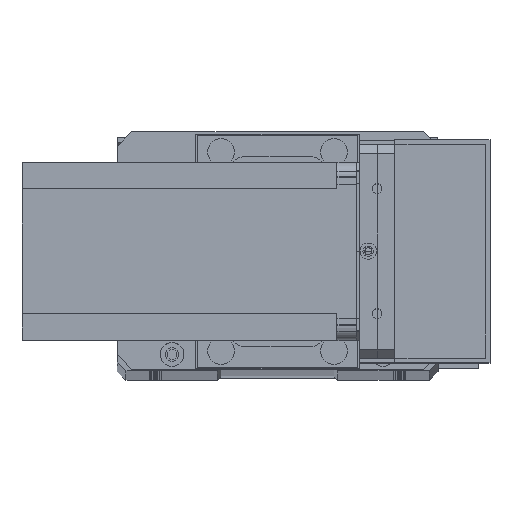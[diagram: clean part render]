
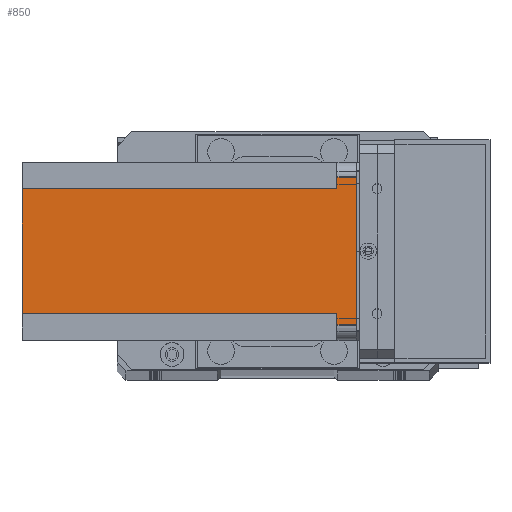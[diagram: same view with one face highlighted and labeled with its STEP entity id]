
A CAD part, top view. The second image highlights one B-rep face of the part: STEP entity #850.
In plain terms, the highlighted planar face has unit normal (0, 0, 1) as drawn and (1, 0, 0) by its records, which use the part's own axes.
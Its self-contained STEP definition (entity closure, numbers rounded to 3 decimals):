
#245 = EDGE_CURVE ( 'NONE', #22721, #23000, #17119, .T. ) ;
#850 = ADVANCED_FACE ( 'NONE', ( #14729 ), #4944, .T. ) ;
#1701 = EDGE_CURVE ( 'NONE', #22721, #15286, #17016, .T. ) ;
#1704 = CARTESIAN_POINT ( 'NONE',  ( 60., 9., -112.5 ) ) ;
#1780 = ORIENTED_EDGE ( 'NONE', *, *, #14964, .F. ) ;
#2035 = LINE ( 'NONE', #7172, #21272 ) ;
#2774 = LINE ( 'NONE', #23531, #7863 ) ;
#3816 = VECTOR ( 'NONE', #16040, 1000. ) ;
#4128 = ORIENTED_EDGE ( 'NONE', *, *, #245, .T. ) ;
#4944 = PLANE ( 'NONE',  #19051 ) ;
#5124 = CARTESIAN_POINT ( 'NONE',  ( 60., 9., -112.5 ) ) ;
#5960 = DIRECTION ( 'NONE',  ( 0., -1., 0. ) ) ;
#6254 = CARTESIAN_POINT ( 'NONE',  ( 60., 5., 0. ) ) ;
#7172 = CARTESIAN_POINT ( 'NONE',  ( 60., 55., -112.5 ) ) ;
#7863 = VECTOR ( 'NONE', #5960, 1000. ) ;
#8008 = VECTOR ( 'NONE', #28649, 1000. ) ;
#8376 = EDGE_CURVE ( 'NONE', #19070, #14752, #2774, .T. ) ;
#8581 = CARTESIAN_POINT ( 'NONE',  ( 60., 0., -6.5 ) ) ;
#9256 = DIRECTION ( 'NONE',  ( 0., 0., -1. ) ) ;
#10123 = DIRECTION ( 'NONE',  ( 1., 0., 0. ) ) ;
#13669 = CARTESIAN_POINT ( 'NONE',  ( 60., 55., -6.5 ) ) ;
#14264 = VECTOR ( 'NONE', #17183, 1000. ) ;
#14371 = VECTOR ( 'NONE', #9256, 1000. ) ;
#14729 = FACE_OUTER_BOUND ( 'NONE', #23393, .T. ) ;
#14752 = VERTEX_POINT ( 'NONE', #17658 ) ;
#14964 = EDGE_CURVE ( 'NONE', #27145, #23000, #28032, .T. ) ;
#14998 = CARTESIAN_POINT ( 'NONE',  ( 60., 0., -112.5 ) ) ;
#15025 = LINE ( 'NONE', #29795, #14264 ) ;
#15249 = EDGE_CURVE ( 'NONE', #15340, #22189, #15025, .T. ) ;
#15286 = VERTEX_POINT ( 'NONE', #32396 ) ;
#15340 = VERTEX_POINT ( 'NONE', #5124 ) ;
#16023 = ORIENTED_EDGE ( 'NONE', *, *, #16373, .T. ) ;
#16040 = DIRECTION ( 'NONE',  ( 0., 0., -1. ) ) ;
#16227 = VECTOR ( 'NONE', #19041, 1000. ) ;
#16373 = EDGE_CURVE ( 'NONE', #19070, #15286, #2035, .T. ) ;
#16710 = DIRECTION ( 'NONE',  ( 0., 0., 1. ) ) ;
#16748 = CARTESIAN_POINT ( 'NONE',  ( 60., 51., -112.5 ) ) ;
#17016 = LINE ( 'NONE', #26521, #16227 ) ;
#17119 = LINE ( 'NONE', #19225, #3816 ) ;
#17183 = DIRECTION ( 'NONE',  ( 0., 1., 0. ) ) ;
#17386 = CARTESIAN_POINT ( 'NONE',  ( 60., 5., -6.5 ) ) ;
#17658 = CARTESIAN_POINT ( 'NONE',  ( 60., 51., -6.5 ) ) ;
#19041 = DIRECTION ( 'NONE',  ( 0., 1., 0. ) ) ;
#19051 = AXIS2_PLACEMENT_3D ( 'NONE', #14998, #10123, #27629 ) ;
#19070 = VERTEX_POINT ( 'NONE', #13669 ) ;
#19225 = CARTESIAN_POINT ( 'NONE',  ( 60., 5., -112.5 ) ) ;
#19739 = EDGE_CURVE ( 'NONE', #14752, #22189, #21864, .T. ) ;
#19838 = ORIENTED_EDGE ( 'NONE', *, *, #1701, .F. ) ;
#21272 = VECTOR ( 'NONE', #22209, 1000. ) ;
#21690 = ORIENTED_EDGE ( 'NONE', *, *, #15249, .T. ) ;
#21864 = LINE ( 'NONE', #31796, #14371 ) ;
#22189 = VERTEX_POINT ( 'NONE', #16748 ) ;
#22209 = DIRECTION ( 'NONE',  ( 0., 0., 1. ) ) ;
#22234 = VECTOR ( 'NONE', #16710, 1000. ) ;
#22721 = VERTEX_POINT ( 'NONE', #6254 ) ;
#23000 = VERTEX_POINT ( 'NONE', #17386 ) ;
#23393 = EDGE_LOOP ( 'NONE', ( #25528, #16023, #19838, #4128, #1780, #29584, #21690, #28245 ) ) ;
#23531 = CARTESIAN_POINT ( 'NONE',  ( 60., 60., -6.5 ) ) ;
#25528 = ORIENTED_EDGE ( 'NONE', *, *, #8376, .F. ) ;
#26521 = CARTESIAN_POINT ( 'NONE',  ( 60., 0., 0. ) ) ;
#27145 = VERTEX_POINT ( 'NONE', #30483 ) ;
#27629 = DIRECTION ( 'NONE',  ( 0., 1., 0. ) ) ;
#28032 = LINE ( 'NONE', #8581, #8008 ) ;
#28245 = ORIENTED_EDGE ( 'NONE', *, *, #19739, .F. ) ;
#28649 = DIRECTION ( 'NONE',  ( 0., -1., 0. ) ) ;
#29584 = ORIENTED_EDGE ( 'NONE', *, *, #31388, .F. ) ;
#29658 = LINE ( 'NONE', #1704, #22234 ) ;
#29795 = CARTESIAN_POINT ( 'NONE',  ( 60., 0., -112.5 ) ) ;
#30483 = CARTESIAN_POINT ( 'NONE',  ( 60., 9., -6.5 ) ) ;
#31388 = EDGE_CURVE ( 'NONE', #15340, #27145, #29658, .T. ) ;
#31796 = CARTESIAN_POINT ( 'NONE',  ( 60., 51., -112.5 ) ) ;
#32396 = CARTESIAN_POINT ( 'NONE',  ( 60., 55., 0. ) ) ;
